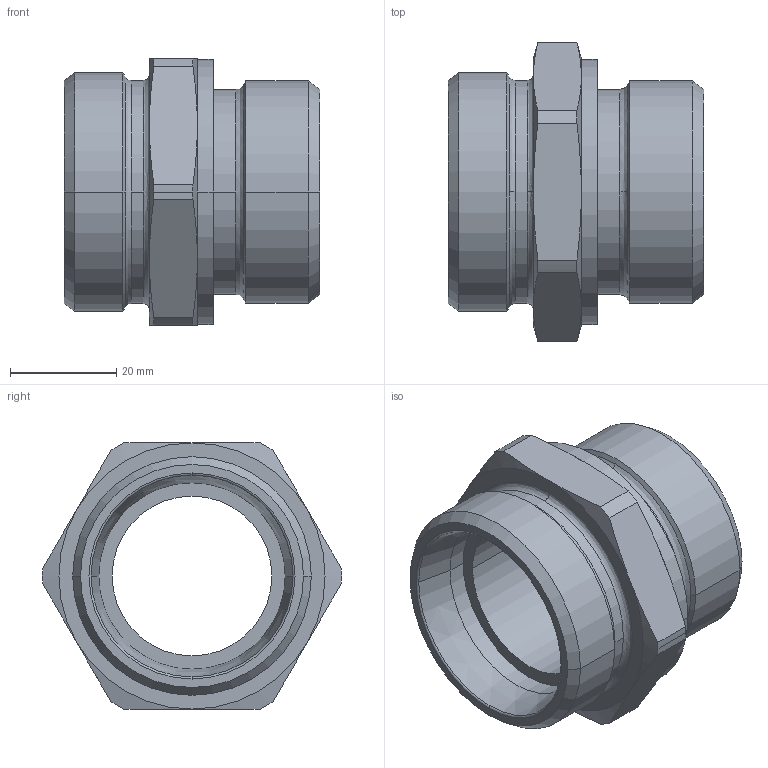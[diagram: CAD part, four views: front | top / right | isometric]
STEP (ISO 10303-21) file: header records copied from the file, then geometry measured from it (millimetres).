
FILE_DESCRIPTION((''),'2;1');
FILE_NAME('100512.stp','2007-10-30T14:17:01',(''),(''),'AutoCAD STEP 2000i','AutoCAD 2000i',', , ');
FILE_SCHEMA(('CONFIG_CONTROL_DESIGN'));
Length unit declared in the file: millimetre
Products named in the file (2): 100512.0; CHIAVE SMUSSATA#0
Assembly tree (1 placements, depth 2):
  100512.0
    CHIAVE SMUSSATA#0
Bounding box: 48 x 56.2 x 50 mm (x, y, z)
Volume: 37015 mm3; surface area: 14656.9 mm2
Topology: 1 solids, 1 shells, 75 faces, 185 edges, 117 vertices
Faces by surface type: cylinder 24, cone 24, plane 13, bspline 12, torus 2
Entity records: 2835 total; most frequent: CARTESIAN_POINT 955, DIRECTION 410, ORIENTED_EDGE 370, EDGE_CURVE 185, AXIS2_PLACEMENT_3D 184, CIRCLE 119, VERTEX_POINT 117, EDGE_LOOP 82
